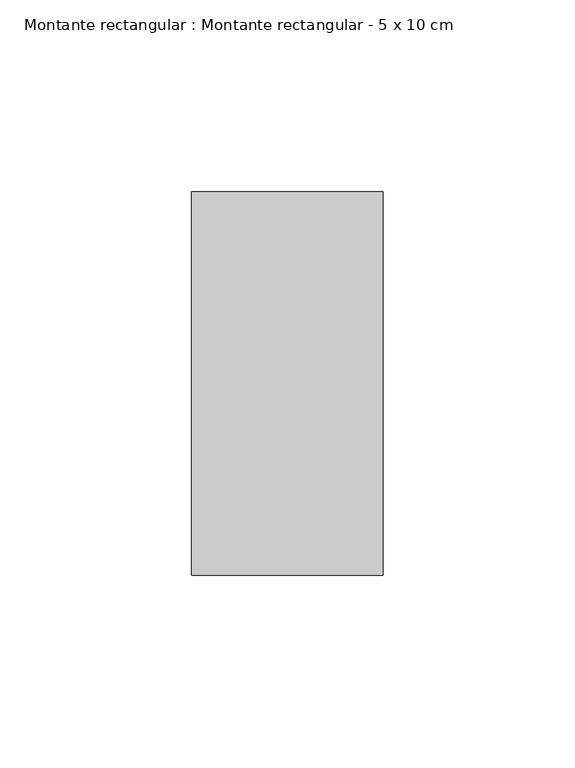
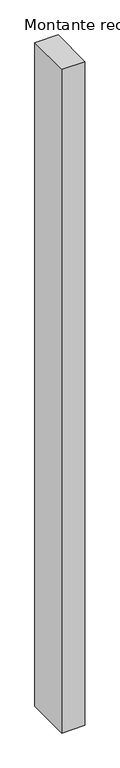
"""IFC4 building model written with IfcOpenShell, lengths in millimetres: member geometry, Montante rectangular : Montante rectangular - 5 x 10 cm."""

from ifc_helpers import new_model, si_unit, frame, origin, place, context, project, spatial, polyline, outline, extrude, source, transform, mapped, element, save


def montante_rectangular_montante_rectangular_5_x_10_cm_7fa7577d(model_context):
    return source(origin(), model_context, "Body", "SweptSolid", [
        extrude(outline(polyline([(25.0, -50.0), (-25.0, -50.0), (-25.0, 50.0), (25.0, 50.0), (25.0, -50.0)])), frame((0.0, 0.0, -1510.0), z_axis=(0.0, 0.0, 1.0), x_axis=(1.0, 0.0, 0.0)), (0.0, 0.0, 1.0), 1510.0),
    ])


if __name__ == "__main__":
    model = new_model("IFC4")
    model_context = context("Model", 3, world=origin())
    ifc_project = project(units=[si_unit("LENGTHUNIT", "METRE", prefix="MILLI")], contexts=[model_context])
    site = spatial("IfcSite", under=ifc_project)
    building = spatial("IfcBuilding", under=site)
    placement = place(None, origin())
    montante_rectangular_montante_rectangular_5_x_10_cm_shape = montante_rectangular_montante_rectangular_5_x_10_cm_7fa7577d(model_context)
    element("IfcMember", 1, ObjectType="Montante rectangular : Montante rectangular - 5 x 10 cm", at=placement, inside=building, context=model_context, shape_type="MappedRepresentation", body=[
        mapped(montante_rectangular_montante_rectangular_5_x_10_cm_shape, transform((0.0, 0.0, 0.0), x_axis=(1.0, 0.0, 0.0), y_axis=(0.0, 1.0, 0.0), z_axis=(0.0, 0.0, 1.0))),
    ])
    save(model, "model.ifc")
